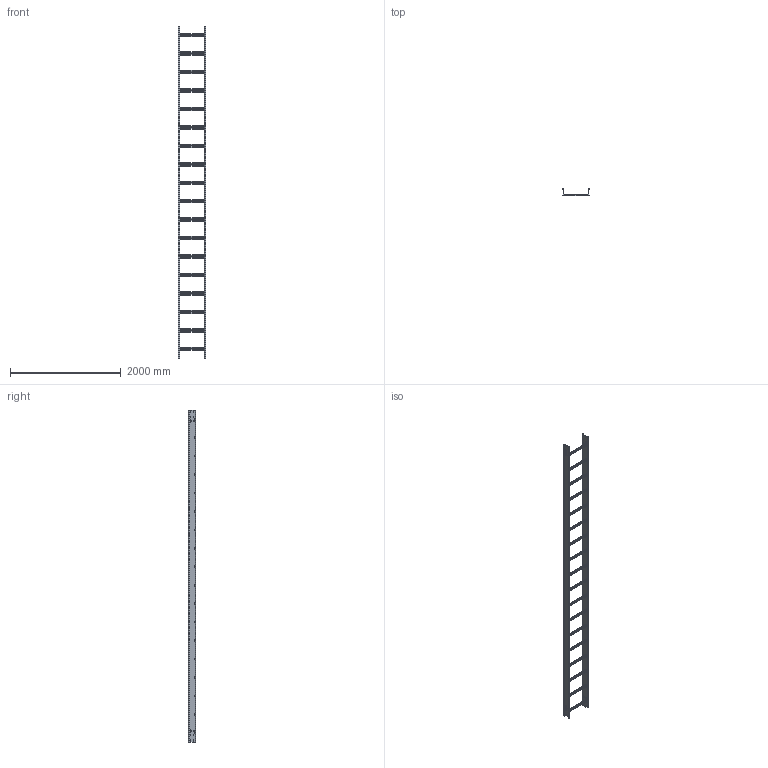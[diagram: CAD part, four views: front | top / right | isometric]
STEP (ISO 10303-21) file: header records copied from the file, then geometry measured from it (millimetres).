
FILE_DESCRIPTION (( 'STEP AP203' ), '1' );
FILE_NAME ('N3 L 450 6m.STEP', '2024-08-29T04:00:58', ( '' ), ( '' ), 'SwSTEP 2.0', 'SolidWorks 2023', '' );
FILE_SCHEMA (( 'CONFIG_CONTROL_DESIGN' ));
Length unit declared in the file: millimetre
Products named in the file (3): Ladder Rails_Nema  3 - 6m; N3 L 450 6m; Ladder Rung_Ladder Rung -  450mm
Assembly tree (20 placements, depth 2):
  N3 L 450 6m
    Ladder Rails_Nema  3 - 6m  x2
    Ladder Rung_Ladder Rung -  450mm  x18
Bounding box: 504 x 131 x 6000 mm (x, y, z)
Volume: 4502717.5 mm3; surface area: 5730535.1 mm2
Topology: 20 solids, 20 shells, 2720 faces, 7284 edges, 4648 vertices
Faces by surface type: plane 2352, cylinder 196, bspline 172
Entity records: 19363 total; most frequent: CARTESIAN_POINT 7691, ORIENTED_EDGE 2420, DIRECTION 1876, EDGE_CURVE 1210, VECTOR 970, LINE 970, VERTEX_POINT 788, EDGE_LOOP 524
